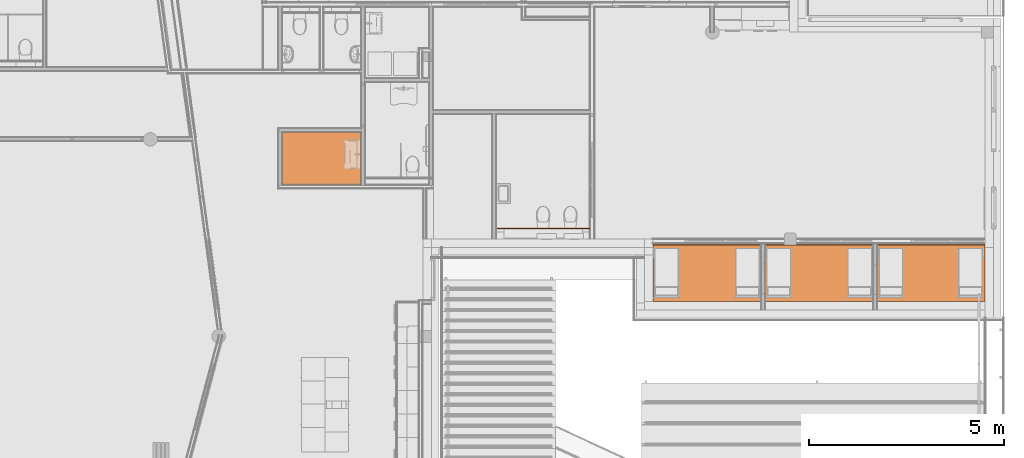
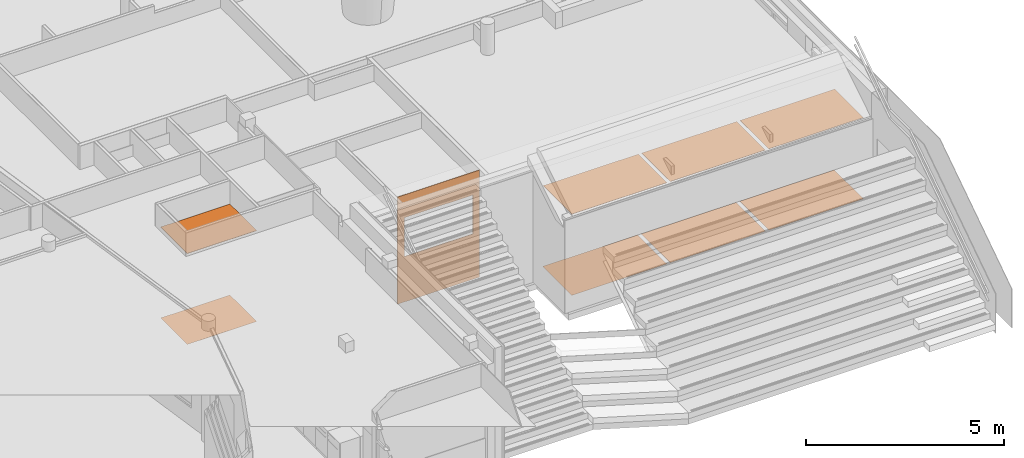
# One storey, part 151 of 167: 9 proxies, 1 opening.
"""IFC2X3 building model written with IfcOpenShell, lengths in millimetres."""

from ifc_helpers import new_model, entity, si_unit, converted_unit, derived_unit, money_unit, direction, frame, origin_with_axes, place, context, subcontext, project, spatial, faceted_brep, material, type_object, element, save


model = new_model("IFC2X3")

# Units and contexts
model_context = context("Model", 3, precision=0.01, world=origin_with_axes(), true_north=direction((0.0, 1.0)))
plan_context = context("Plan", 3, precision=0.01, world=origin_with_axes(), true_north=direction((0.0, 1.0)))
body_context = subcontext(model_context, "Body", "Model", "MODEL_VIEW")
ifc_project = project(units=[si_unit("LENGTHUNIT", "METRE", prefix="MILLI"), si_unit("AREAUNIT", "SQUARE_METRE"), si_unit("VOLUMEUNIT", "CUBIC_METRE"), converted_unit("PLANEANGLEUNIT", "DEGREE", entity("IfcPlaneAngleMeasure", 0.0174532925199), si_unit("PLANEANGLEUNIT", "RADIAN"), dimensions=[0, 0, 0, 0, 0, 0, 0]), si_unit("SOLIDANGLEUNIT", "STERADIAN"), money_unit("EUR"), converted_unit("TIMEUNIT", "Year", entity("IfcTimeMeasure", 31556926.0), si_unit("TIMEUNIT", "SECOND"), dimensions=[0, 0, 1, 0, 0, 0, 0]), si_unit("MASSUNIT", "GRAM", prefix="KILO"), si_unit("THERMODYNAMICTEMPERATUREUNIT", "DEGREE_CELSIUS"), si_unit("LUMINOUSINTENSITYUNIT", "LUMEN"), si_unit("ENERGYUNIT", "JOULE", prefix="MEGA"), derived_unit("THERMALCONDUCTANCEUNIT", [(si_unit("POWERUNIT", "WATT"), 1), (si_unit("LENGTHUNIT", "METRE"), -1), (si_unit("THERMODYNAMICTEMPERATUREUNIT", "KELVIN"), -1)]), derived_unit("SPECIFICHEATCAPACITYUNIT", [(si_unit("ENERGYUNIT", "JOULE"), 1), (si_unit("MASSUNIT", "GRAM", prefix="KILO"), -1), (si_unit("THERMODYNAMICTEMPERATUREUNIT", "KELVIN"), -1)]), derived_unit("MASSDENSITYUNIT", [(si_unit("MASSUNIT", "GRAM", prefix="KILO"), 1), (si_unit("VOLUMEUNIT", "CUBIC_METRE"), -1)])], contexts=[model_context, plan_context])

# Site, building, storey
site_placement = place(None, origin_with_axes())
site = spatial("IfcSite", under=ifc_project, at=site_placement, Name="Site", CompositionType="ELEMENT")
building_placement = place(site_placement, origin_with_axes())
building = spatial("IfcBuilding", under=site, at=building_placement, Name="Naam gebouw", CompositionType="ELEMENT")
storey_placement = place(building_placement, origin_with_axes())
storey = spatial("IfcBuildingStorey", under=building, at=storey_placement, Name="Begane grond", CompositionType="ELEMENT", Elevation=0.0)

# Proxies
ifc_material_1 = material(Name="ALG - BINNENAFWERKING")
building_element_proxy_type_1 = type_object("IfcBuildingElementProxyType", Name="ALG - BINNENAFWERKING 10", PredefinedType="NOTDEFINED")
proxy_1_placement = place(storey_placement, frame((24975.000065, 32686.3528663, 2800.0), z_axis=(0.0, 0.0, 1.0), x_axis=(1.0, 0.0, 0.0)))
element("IfcBuildingElementProxy", 1, at=proxy_1_placement, inside=storey, type_object=building_element_proxy_type_1, material=ifc_material_1, Name="23__Vloer-x", context=body_context, shape_type="Brep", body=[
    faceted_brep([(0.0, 0.0, 10.0), (0.0, 0.0, 0.0), (2024.99994826, 0.0, 0.0), (2024.99994826, 0.0, 10.0), (0.0, 1349.99999544, 10.0), (0.0, 1349.99999544, 0.0), (2024.99994826, 1349.99999544, 0.0), (2024.99994826, 1349.99999544, 10.0)], [[[0, 1, 2, 3]], [[4, 5, 1, 0]], [[2, 1, 5, 6]], [[3, 2, 6, 7]], [[4, 0, 3, 7]], [[7, 6, 5, 4]]]),
])
proxy_2_placement = place(storey_placement, frame((34474.9998838, 29699.9996707, 2500.0), z_axis=(0.0, 0.0, 1.0), x_axis=(1.0, 0.0, 0.0)))
element("IfcBuildingElementProxy", 2, at=proxy_2_placement, inside=storey, type_object=building_element_proxy_type_1, material=ifc_material_1, Name="23__Vloer-x", context=body_context, shape_type="Brep", body=[
    faceted_brep([(0.0, 0.0, 10.0), (0.0, 0.0, 0.0), (2775.00002427, 0.0, 0.0), (2775.00002427, 0.0, 10.0), (0.0, 1449.99984251, 10.0), (0.0, 1449.99984251, 0.0), (2775.00002427, 1449.99984251, 0.0), (2775.00002427, 1449.99984251, 10.0)], [[[0, 1, 2, 3]], [[4, 5, 1, 0]], [[2, 1, 5, 6]], [[3, 2, 6, 7]], [[4, 0, 3, 7]], [[7, 6, 5, 4]]]),
])
proxy_3_placement = place(storey_placement, frame((40210.9999747, 29699.9996818, 2500.0), z_axis=(0.0, 0.0, 1.0), x_axis=(1.0, 0.0, 0.0)))
element("IfcBuildingElementProxy", 3, at=proxy_3_placement, inside=storey, type_object=building_element_proxy_type_1, material=ifc_material_1, Name="23__Vloer-x", context=body_context, shape_type="Brep", body=[
    faceted_brep([(2775.00002427, 1449.99984251, 0.0), (13.9998837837, 1449.99984251, 0.0), (13.9998837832, 1449.99984251, 10.0), (2775.00002427, 1449.99984251, 10.0), (2775.00002427, 0.0, 0.0), (13.9998830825, 0.0, 0.0), (13.9998830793, 0.0, 10.0), (2775.00002427, 0.0, 10.0)], [[[0, 1, 2, 3]], [[4, 5, 1, 0]], [[5, 6, 2, 1]], [[3, 2, 6, 7]], [[3, 7, 4, 0]], [[7, 6, 5, 4]]]),
])
proxy_4_placement = place(storey_placement, frame((37349.9998343, 29699.9996707, 2500.0), z_axis=(0.0, 0.0, 1.0), x_axis=(1.0, 0.0, 0.0)))
element("IfcBuildingElementProxy", 4, at=proxy_4_placement, inside=storey, type_object=building_element_proxy_type_1, material=ifc_material_1, Name="23__Vloer-x", context=body_context, shape_type="Brep", body=[
    faceted_brep([(0.0, 0.0, 10.0), (0.0, 0.0, 0.0), (2775.00002427, 0.0, 0.0), (2775.00002427, 0.0, 10.0), (0.0, 1449.99984251, 10.0), (0.0, 1449.99984251, 0.0), (2775.00002427, 1449.99984251, 0.0), (2775.00002427, 1449.99984251, 10.0)], [[[0, 1, 2, 3]], [[4, 5, 1, 0]], [[2, 1, 5, 6]], [[3, 2, 6, 7]], [[4, 0, 3, 7]], [[7, 6, 5, 4]]]),
])
ifc_material_2 = material(Name="_TenW_43_Flexx F15")
building_element_proxy_type_2 = type_object("IfcBuildingElementProxyType", Name="_TenW_43_Flexx F15 2", PredefinedType="NOTDEFINED")
proxy_5_placement = place(storey_placement, frame((24974.9999644, 32686.3528663, 0.0), z_axis=(0.0, 0.0, 1.0), x_axis=(1.0, 0.0, 0.0)))
element("IfcBuildingElementProxy", 5, at=proxy_5_placement, inside=storey, type_object=building_element_proxy_type_2, material=ifc_material_2, Name="23__Vloer-x", context=body_context, shape_type="Brep", body=[
    faceted_brep([(0.0, 0.0, 2.0), (0.0, 0.0, 0.0), (2025.00002115, 0.0, 0.0), (2025.00002115, 0.0, 2.0), (6.8003707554e-05, 1349.99999143, 2.0), (6.8003707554e-05, 1349.99999143, 0.0), (2025.00002115, 1349.99999143, 0.0), (2025.00002115, 1349.99999143, 2.0)], [[[0, 1, 2, 3]], [[4, 5, 1, 0]], [[2, 1, 5, 6]], [[3, 2, 6, 7]], [[4, 0, 3, 7]], [[7, 6, 5, 4]]]),
])

# Proxy, opening
ifc_material_3 = material(Name="_TenW_22_Gipsplaat watervast")
building_element_proxy_type_3 = type_object("IfcBuildingElementProxyType", Name="_TenW_22_Gipsvezelplaat watervast 15", PredefinedType="NOTDEFINED")
proxy_6_placement = place(storey_placement, frame((32925.2814665, 31564.9997738, 0.0), z_axis=(0.0, 0.0, 1.0), x_axis=(-1.0, 0.0, 0.0)))
proxy_6 = element("IfcBuildingElementProxy", 6, at=proxy_6_placement, inside=storey, type_object=building_element_proxy_type_3, material=ifc_material_3, Name="22__Wand-x", context=body_context, shape_type="Brep", body=[
    faceted_brep([(2462.28146709, -15.0, 0.0), (2462.28146709, -15.0, 3305.0), (62.5, -15.0, 3305.0), (62.5, -15.0, 0.0), (257.851900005, -15.0, 2600.0), (2257.8519, -15.0, 2600.0), (2257.8519, -15.0, 1400.0), (257.851900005, -15.0, 1400.0), (2462.28146709, 0.0, 0.0), (2462.28146709, 0.0, 3305.0), (62.5, 0.0, 3305.0), (62.5, 0.0, 0.0), (257.851900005, 0.0, 2600.0), (2257.8519, 0.0, 2600.0), (2257.8519, 0.0, 1400.0), (257.851900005, 0.0, 1400.0)], [[[0, 1, 2, 3], [4, 5, 6, 7]], [[8, 9, 1, 0]], [[9, 10, 2, 1]], [[3, 2, 10, 11]], [[11, 8, 0, 3]], [[12, 13, 5, 4]], [[13, 14, 6, 5]], [[14, 15, 7, 6]], [[15, 12, 4, 7]], [[11, 10, 9, 8], [12, 15, 14, 13]]]),
])
opening_placement = place(proxy_6_placement, frame((32925.2814665, 31564.9997738, 0.0), z_axis=(0.0, 0.0, 1.0), x_axis=(-1.0, 0.0, 0.0)))
element("IfcOpeningElement", 7, at=opening_placement, cuts=proxy_6, Name="_Lege opening_Doorvoer-x", context=body_context, shape_type="Brep", body=[
    faceted_brep([(32667.4295664, 31290.9997738, 1400.0), (30667.4295664, 31290.9997738, 1400.0), (30667.4295664, 31594.9997738, 1400.0), (32667.4295664, 31594.9997738, 1400.0), (32667.4295664, 31290.9997738, 2600.0), (30667.4295664, 31290.9997738, 2600.0), (30667.4295664, 31594.9997738, 2600.0), (32667.4295664, 31594.9997738, 2600.0)], [[[0, 1, 2, 3]], [[0, 4, 5, 1]], [[1, 5, 6, 2]], [[3, 2, 6, 7]], [[4, 0, 3, 7]], [[5, 4, 7, 6]]]),
])

# Proxies
ifc_material_4 = material(Name="_TenW_43_Green Welness")
building_element_proxy_type_4 = type_object("IfcBuildingElementProxyType", Name="_TenW_43_Green Welness 2", PredefinedType="NOTDEFINED")
proxy_7_placement = place(storey_placement, frame((34475.000001, 29699.9999994, 0.0), z_axis=(0.0, 0.0, 1.0), x_axis=(1.0, 0.0, 0.0)))
element("IfcBuildingElementProxy", 8, at=proxy_7_placement, inside=storey, type_object=building_element_proxy_type_4, material=ifc_material_4, Name="23__Vloer-x", context=body_context, shape_type="Brep", body=[
    faceted_brep([(0.0, 0.0, 2.0), (0.0, 0.0, 0.0), (2774.99985755, 0.0, 0.0), (2774.99985755, 0.0, 2.0), (0.0, 1474.99977442, 2.0), (0.0, 1474.99977442, 0.0), (2774.99985755, 1474.99977442, 0.0), (2774.99985755, 1474.99977442, 2.0)], [[[0, 1, 2, 3]], [[4, 5, 1, 0]], [[2, 1, 5, 6]], [[3, 2, 6, 7]], [[4, 0, 3, 7]], [[7, 6, 5, 4]]]),
])
proxy_8_placement = place(storey_placement, frame((37349.9998648, 29700.0000001, 0.0), z_axis=(0.0, 0.0, 1.0), x_axis=(1.0, 0.0, 0.0)))
element("IfcBuildingElementProxy", 9, at=proxy_8_placement, inside=storey, type_object=building_element_proxy_type_4, material=ifc_material_4, Name="23__Vloer-x", context=body_context, shape_type="Brep", body=[
    faceted_brep([(0.0, 0.0, 2.0), (0.0, 0.0, 0.0), (2774.99999382, 0.0, 0.0), (2774.99999382, 0.0, 2.0), (0.0, 1474.99977374, 2.0), (0.0, 1474.99977374, 0.0), (2774.99999382, 1474.99977374, 0.0), (2774.99999382, 1474.99977374, 2.0)], [[[0, 1, 2, 3]], [[4, 5, 1, 0]], [[2, 1, 5, 6]], [[3, 2, 6, 7]], [[4, 0, 3, 7]], [[7, 6, 5, 4]]]),
])
proxy_9_placement = place(storey_placement, frame((40224.9998589, 29699.9999997, 0.0), z_axis=(0.0, 0.0, 1.0), x_axis=(1.0, 0.0, 0.0)))
element("IfcBuildingElementProxy", 10, at=proxy_9_placement, inside=storey, type_object=building_element_proxy_type_4, material=ifc_material_4, Name="23__Vloer-x", context=body_context, shape_type="Brep", body=[
    faceted_brep([(0.0, 0.0, 2.0), (0.0, 0.0, 0.0), (2761.00014113, 0.0, 0.0), (2761.00014113, 0.0, 2.0), (0.0, 1474.99977413, 2.0), (0.0, 1474.99977413, 0.0), (2761.00014113, 1474.99977413, 0.0), (2761.00014113, 1474.99977413, 2.0)], [[[0, 1, 2, 3]], [[4, 5, 1, 0]], [[2, 1, 5, 6]], [[3, 2, 6, 7]], [[4, 0, 3, 7]], [[7, 6, 5, 4]]]),
])

save(model, "model.ifc")
